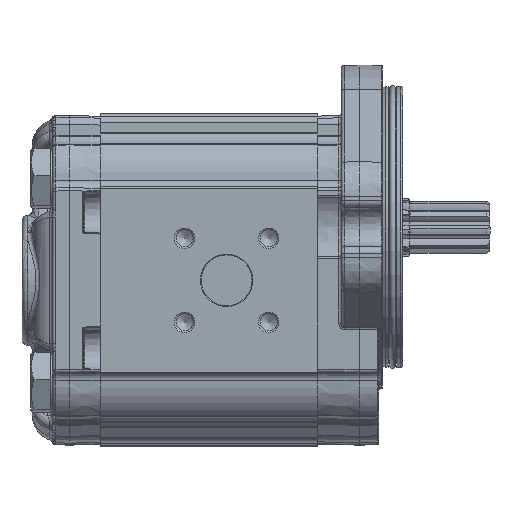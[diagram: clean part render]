
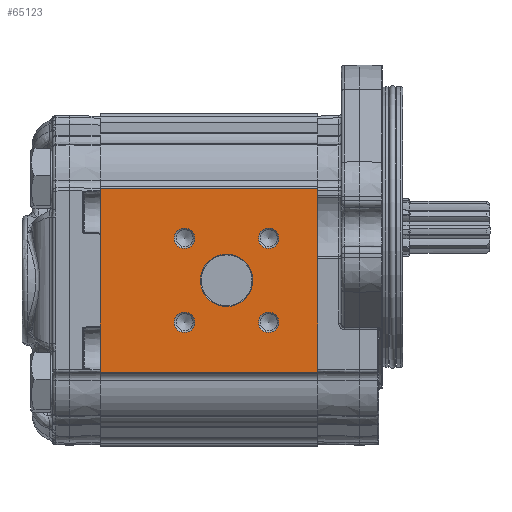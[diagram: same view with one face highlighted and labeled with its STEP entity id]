
A CAD part, left-side view. The second image highlights one B-rep face of the part: STEP entity #65123.
In plain terms, the highlighted planar face has unit normal (-1, 0, 0).
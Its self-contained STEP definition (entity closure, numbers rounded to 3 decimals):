
#4377=PLANE('',#69452);
#6128=CIRCLE('',#69453,7.7);
#6129=CIRCLE('',#69454,3.);
#6130=CIRCLE('',#69455,3.);
#6131=CIRCLE('',#69456,3.);
#6132=CIRCLE('',#69457,3.);
#14206=ORIENTED_EDGE('',*,*,#24287,.T.);
#14207=ORIENTED_EDGE('',*,*,#24288,.T.);
#14208=ORIENTED_EDGE('',*,*,#24289,.T.);
#14209=ORIENTED_EDGE('',*,*,#24290,.T.);
#14210=ORIENTED_EDGE('',*,*,#24291,.T.);
#14211=ORIENTED_EDGE('',*,*,#24292,.F.);
#14212=ORIENTED_EDGE('',*,*,#24293,.F.);
#14213=ORIENTED_EDGE('',*,*,#24294,.T.);
#14214=ORIENTED_EDGE('',*,*,#24295,.T.);
#24287=EDGE_CURVE('',#29712,#29712,#6128,.F.);
#24288=EDGE_CURVE('',#29713,#29713,#6129,.F.);
#24289=EDGE_CURVE('',#29714,#29714,#6130,.F.);
#24290=EDGE_CURVE('',#29715,#29715,#6131,.F.);
#24291=EDGE_CURVE('',#29716,#29716,#6132,.F.);
#24292=EDGE_CURVE('',#29717,#29718,#32829,.T.);
#24293=EDGE_CURVE('',#29719,#29717,#32830,.T.);
#24294=EDGE_CURVE('',#29719,#29720,#32831,.T.);
#24295=EDGE_CURVE('',#29720,#29718,#32832,.T.);
#29712=VERTEX_POINT('',#111280);
#29713=VERTEX_POINT('',#111282);
#29714=VERTEX_POINT('',#111284);
#29715=VERTEX_POINT('',#111286);
#29716=VERTEX_POINT('',#111288);
#29717=VERTEX_POINT('',#111290);
#29718=VERTEX_POINT('',#111291);
#29719=VERTEX_POINT('',#111293);
#29720=VERTEX_POINT('',#111295);
#32829=LINE('',#111289,#35078);
#32830=LINE('',#111292,#35079);
#32831=LINE('',#111294,#35080);
#32832=LINE('',#111296,#35081);
#35078=VECTOR('',#78171,1000.);
#35079=VECTOR('',#78172,1000.);
#35080=VECTOR('',#78173,1000.);
#35081=VECTOR('',#78174,1000.);
#37952=EDGE_LOOP('',(#14206));
#37953=EDGE_LOOP('',(#14207));
#37954=EDGE_LOOP('',(#14208));
#37955=EDGE_LOOP('',(#14209));
#37956=EDGE_LOOP('',(#14210));
#37957=EDGE_LOOP('',(#14211,#14212,#14213,#14214));
#41222=FACE_BOUND('',#37952,.T.);
#41223=FACE_BOUND('',#37953,.T.);
#41224=FACE_BOUND('',#37954,.T.);
#41225=FACE_BOUND('',#37955,.T.);
#41226=FACE_BOUND('',#37956,.T.);
#41227=FACE_BOUND('',#37957,.T.);
#65123=ADVANCED_FACE('',(#41222,#41223,#41224,#41225,#41226,#41227),#4377,
 .T.);
#69452=AXIS2_PLACEMENT_3D('',#111278,#78159,#78160);
#69453=AXIS2_PLACEMENT_3D('',#111279,#78161,#78162);
#69454=AXIS2_PLACEMENT_3D('',#111281,#78163,#78164);
#69455=AXIS2_PLACEMENT_3D('',#111283,#78165,#78166);
#69456=AXIS2_PLACEMENT_3D('',#111285,#78167,#78168);
#69457=AXIS2_PLACEMENT_3D('',#111287,#78169,#78170);
#78159=DIRECTION('',(-1.,0.,0.));
#78160=DIRECTION('',(0.,0.,1.));
#78161=DIRECTION('',(-1.,0.,0.));
#78162=DIRECTION('',(0.,0.,1.));
#78163=DIRECTION('',(-1.,0.,0.));
#78164=DIRECTION('',(0.,0.,1.));
#78165=DIRECTION('',(-1.,0.,0.));
#78166=DIRECTION('',(0.,0.,1.));
#78167=DIRECTION('',(-1.,0.,0.));
#78168=DIRECTION('',(0.,0.,1.));
#78169=DIRECTION('',(-1.,0.,0.));
#78170=DIRECTION('',(0.,0.,1.));
#78171=DIRECTION('',(0.,0.,-1.));
#78172=DIRECTION('',(0.,-1.,0.));
#78173=DIRECTION('',(0.,0.,-1.));
#78174=DIRECTION('',(0.,-1.,0.));
#111278=CARTESIAN_POINT('',(-43.,64.,27.048));
#111279=CARTESIAN_POINT('',(-43.,26.8,0.));
#111280=CARTESIAN_POINT('',(-43.,26.8,7.7));
#111281=CARTESIAN_POINT('',(-43.,39.174,-12.374));
#111282=CARTESIAN_POINT('',(-43.,39.174,-9.374));
#111283=CARTESIAN_POINT('',(-43.,39.174,12.374));
#111284=CARTESIAN_POINT('',(-43.,39.174,15.374));
#111285=CARTESIAN_POINT('',(-43.,14.426,12.374));
#111286=CARTESIAN_POINT('',(-43.,14.426,15.374));
#111287=CARTESIAN_POINT('',(-43.,14.426,-12.374));
#111288=CARTESIAN_POINT('',(-43.,14.426,-9.374));
#111289=CARTESIAN_POINT('',(-43.,0.,27.048));
#111290=CARTESIAN_POINT('',(-43.,0.,27.048));
#111291=CARTESIAN_POINT('',(-43.,0.,-27.048));
#111292=CARTESIAN_POINT('',(-43.,64.,27.048));
#111293=CARTESIAN_POINT('',(-43.,64.,27.048));
#111294=CARTESIAN_POINT('',(-43.,64.,27.048));
#111295=CARTESIAN_POINT('',(-43.,64.,-27.048));
#111296=CARTESIAN_POINT('',(-43.,64.,-27.048));
